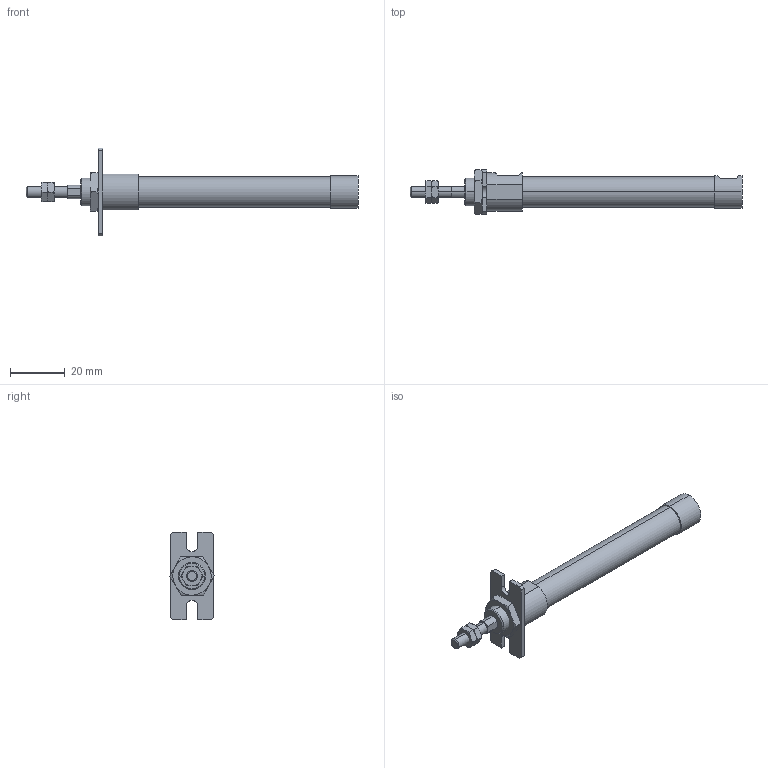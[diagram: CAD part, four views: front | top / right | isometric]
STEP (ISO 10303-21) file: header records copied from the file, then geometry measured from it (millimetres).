
FILE_DESCRIPTION (( 'STEP AP203' ), '1' );
FILE_NAME ('ZGU2-10-45-A.STEP', '2016-03-31T00:53:10', ( '' ), ( '' ), 'SwSTEP 2.0', 'SolidWorks 2014', '' );
FILE_SCHEMA (( 'CONFIG_CONTROL_DESIGN' ));
Length unit declared in the file: millimetre
Products named in the file (5): Z-10-A; ZGU2-10-45-A; ZGU2-10-45
Assembly tree (5 placements, depth 2):
  ZGU2-10-45-A
    ZGU2-10-45
    (unnamed)  x2
    (unnamed)
    Z-10-A
Bounding box: 121 x 16.16 x 32 mm (x, y, z)
Volume: 11390.7 mm3; surface area: 6088.9 mm2
Topology: 5 solids, 5 shells, 129 faces, 292 edges, 178 vertices
Faces by surface type: plane 57, torus 36, cylinder 28, cone 8
Entity records: 3817 total; most frequent: CARTESIAN_POINT 909, DIRECTION 498, ORIENTED_EDGE 480, EDGE_CURVE 240, AXIS2_PLACEMENT_3D 195, VERTEX_POINT 150, EDGE_LOOP 122, LINE 108
